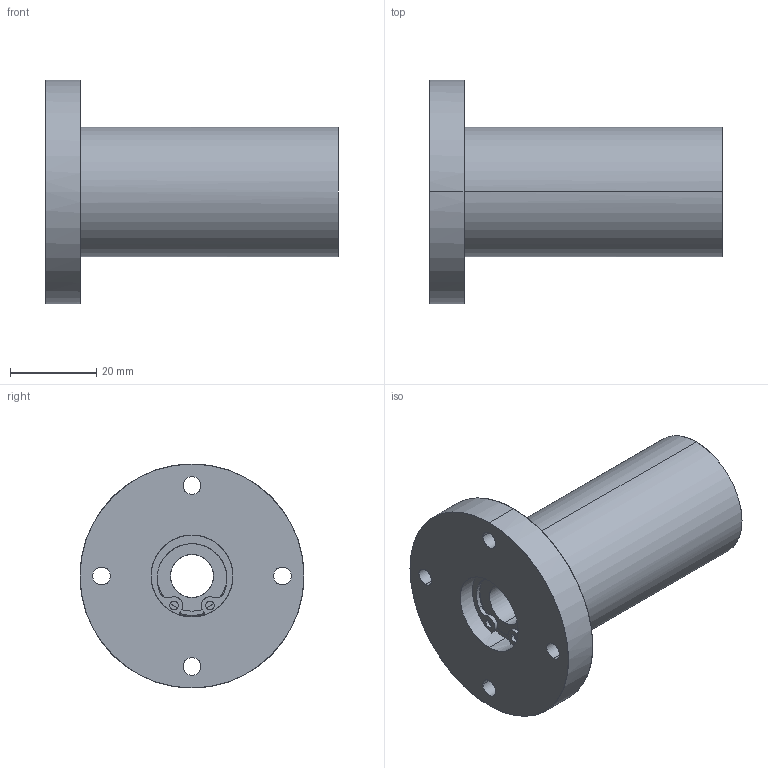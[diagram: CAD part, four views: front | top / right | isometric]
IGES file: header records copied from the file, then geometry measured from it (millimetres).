
Global section: file name: No Iges File Name specified; native system: AutoDesk Inventor R10; preprocessor: AutoDesk Inventor Iges Exporter R10; author: No Author specified; organization: No Organization specified; date: 20101214.134511; units: millimetre
Bounding box: 68 x 52 x 52 mm (x, y, z)
Surface area: 15448.3 mm2 (no closed solid volume)
Topology: 0 solids, 0 shells, 111 faces, 816 edges, 816 vertices
Faces by surface type: bspline 111
